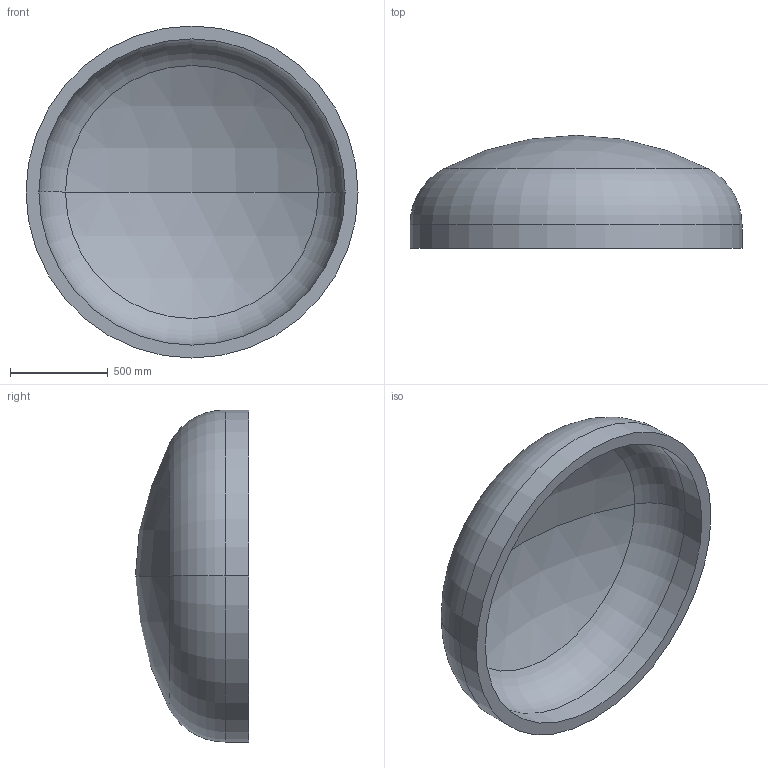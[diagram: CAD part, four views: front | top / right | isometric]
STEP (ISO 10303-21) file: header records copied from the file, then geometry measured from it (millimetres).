
FILE_DESCRIPTION (( 'STEP AP203' ), '1' );
FILE_NAME ('DIN 28013 Korbbogenform_-_Boden DIN 28013 - 1700 x 120 - I - s=66.step', '2016-07-01T11:57:45', ( '' ), ( '' ), 'SwSTEP 2.0', 'SolidWorks 2013', '' );
FILE_SCHEMA (( 'CONFIG_CONTROL_DESIGN' ));
Length unit declared in the file: millimetre
Products named in the file (1): DIN 28013 Korbbogenform_-_Boden DIN 28013 - 1700 x 120 - I - s=66
Bounding box: 1700 x 578.83 x 1700 mm (x, y, z)
Volume: 237673259.8 mm3; surface area: 7550143.1 mm2
Topology: 1 solids, 1 shells, 13 faces, 24 edges, 14 vertices
Faces by surface type: torus 4, cylinder 4, sphere 4, plane 1
Entity records: 407 total; most frequent: DIRECTION 72, CARTESIAN_POINT 52, ORIENTED_EDGE 48, AXIS2_PLACEMENT_3D 34, EDGE_CURVE 24, CIRCLE 20, VERTEX_POINT 14, EDGE_LOOP 14
